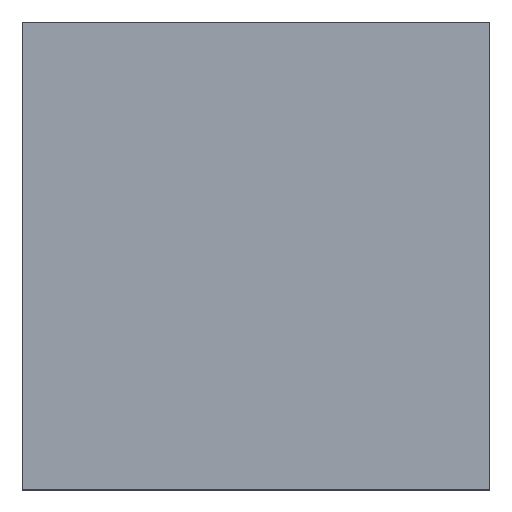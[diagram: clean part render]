
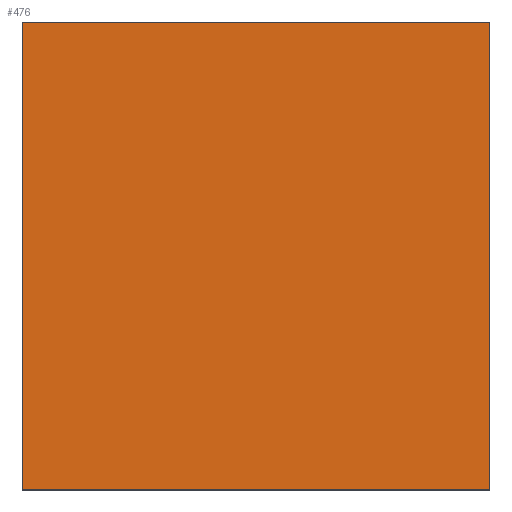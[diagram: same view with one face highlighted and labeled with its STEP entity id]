
A CAD part, top view. The second image highlights one B-rep face of the part: STEP entity #476.
In plain terms, the highlighted planar face has unit normal (0, 0, 1).
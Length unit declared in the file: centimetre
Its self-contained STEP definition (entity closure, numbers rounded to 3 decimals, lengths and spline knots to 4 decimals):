
#8 = FACE_OUTER_BOUND ( 'NONE', #560, .T. ) ;
#21 = VECTOR ( 'NONE', #192, 100. ) ;
#23 = ORIENTED_EDGE ( 'NONE', *, *, #259, .T. ) ;
#30 = LINE ( 'NONE', #680, #21 ) ;
#92 = CARTESIAN_POINT ( 'NONE',  ( 0., 1000., 1000. ) ) ;
#108 = LINE ( 'NONE', #491, #545 ) ;
#162 = EDGE_CURVE ( 'NONE', #377, #200, #30, .T. ) ;
#173 = CARTESIAN_POINT ( 'NONE',  ( 0., 1000., 1000. ) ) ;
#192 = DIRECTION ( 'NONE',  ( 0., 1., 0. ) ) ;
#200 = VERTEX_POINT ( 'NONE', #314 ) ;
#211 = DIRECTION ( 'NONE',  ( 0., -1., 0. ) ) ;
#253 = VERTEX_POINT ( 'NONE', #540 ) ;
#259 = EDGE_CURVE ( 'NONE', #523, #253, #599, .T. ) ;
#299 = EDGE_CURVE ( 'NONE', #200, #523, #489, .T. ) ;
#314 = CARTESIAN_POINT ( 'NONE',  ( 1000., 1000., 1000. ) ) ;
#337 = CARTESIAN_POINT ( 'NONE',  ( 0., 0., 1000. ) ) ;
#377 = VERTEX_POINT ( 'NONE', #595 ) ;
#402 = VECTOR ( 'NONE', #532, 100. ) ;
#420 = VECTOR ( 'NONE', #211, 100. ) ;
#445 = DIRECTION ( 'NONE',  ( 1., 0., 0. ) ) ;
#450 = DIRECTION ( 'NONE',  ( 0., 0., 1. ) ) ;
#464 = ORIENTED_EDGE ( 'NONE', *, *, #299, .T. ) ;
#476 = ADVANCED_FACE ( 'NONE', ( #8 ), #499, .T. ) ;
#484 = ORIENTED_EDGE ( 'NONE', *, *, #630, .T. ) ;
#489 = LINE ( 'NONE', #92, #402 ) ;
#491 = CARTESIAN_POINT ( 'NONE',  ( 0., 0., 1000. ) ) ;
#499 = PLANE ( 'NONE',  #522 ) ;
#522 = AXIS2_PLACEMENT_3D ( 'NONE', #337, #450, #445 ) ;
#523 = VERTEX_POINT ( 'NONE', #173 ) ;
#532 = DIRECTION ( 'NONE',  ( -1., 0., 0. ) ) ;
#540 = CARTESIAN_POINT ( 'NONE',  ( 0., 0., 1000. ) ) ;
#545 = VECTOR ( 'NONE', #612, 100. ) ;
#560 = EDGE_LOOP ( 'NONE', ( #23, #484, #576, #464 ) ) ;
#576 = ORIENTED_EDGE ( 'NONE', *, *, #162, .T. ) ;
#595 = CARTESIAN_POINT ( 'NONE',  ( 1000., 0., 1000. ) ) ;
#599 = LINE ( 'NONE', #652, #420 ) ;
#612 = DIRECTION ( 'NONE',  ( 1., 0., 0. ) ) ;
#630 = EDGE_CURVE ( 'NONE', #253, #377, #108, .T. ) ;
#652 = CARTESIAN_POINT ( 'NONE',  ( 0., 1000., 1000. ) ) ;
#680 = CARTESIAN_POINT ( 'NONE',  ( 1000., 1000., 1000. ) ) ;
